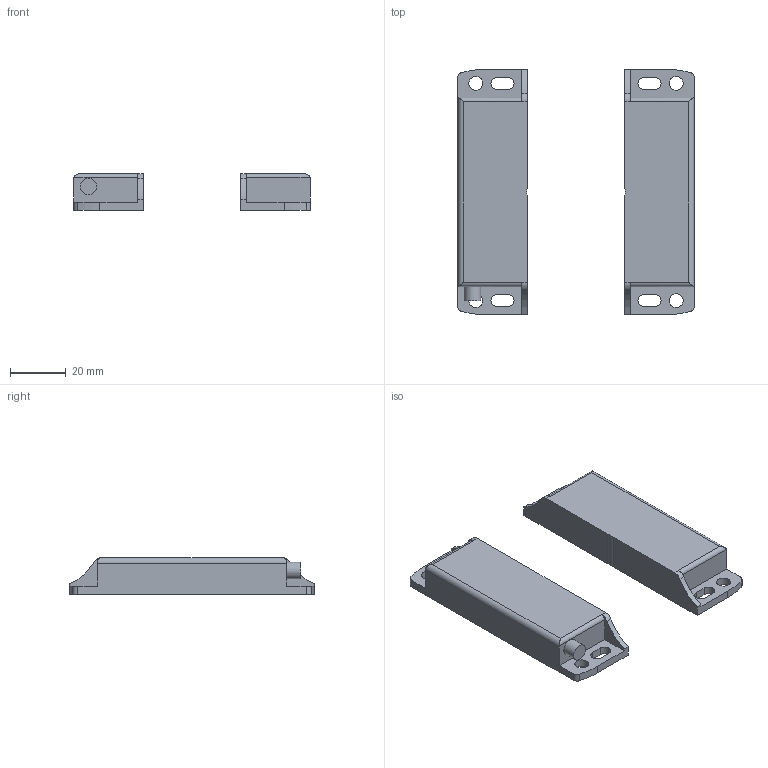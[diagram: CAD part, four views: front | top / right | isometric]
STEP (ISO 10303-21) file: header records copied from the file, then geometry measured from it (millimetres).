
FILE_DESCRIPTION( ( 'STEP AP203' ), ' ' );
FILE_NAME( 'p:/temp/worker_782/3468_1372/app_49_02017110912442874800125192d056f_000000_00_00_000000/format_2/MN500S.stp', '2017-11-09T11:44:29', ( '' ), ( '' ), ' ', 'PARTsolutions', ' ' );
FILE_SCHEMA( ( 'CONFIG_CONTROL_DESIGN' ) );
Length unit declared in the file: millimetre
Products named in the file (3): MN500S; _MN500S_p1; _MN500S_p2
Assembly tree (2 placements, depth 2):
  MN500S
    _MN500S_p1
    _MN500S_p2
Bounding box: 85 x 88 x 13.1 mm (x, y, z)
Volume: 47105.5 mm3; surface area: 14093.2 mm2
Topology: 2 solids, 2 shells, 72 faces, 202 edges, 135 vertices
Faces by surface type: cylinder 37, plane 35
Full cylindrical faces by diameter (mm): 5 x4, 6 x1
Entity records: 2510 total; most frequent: CARTESIAN_POINT 473, DIRECTION 412, ORIENTED_EDGE 392, EDGE_CURVE 196, AXIS2_PLACEMENT_3D 145, VERTEX_POINT 134, LINE 122, VECTOR 122
